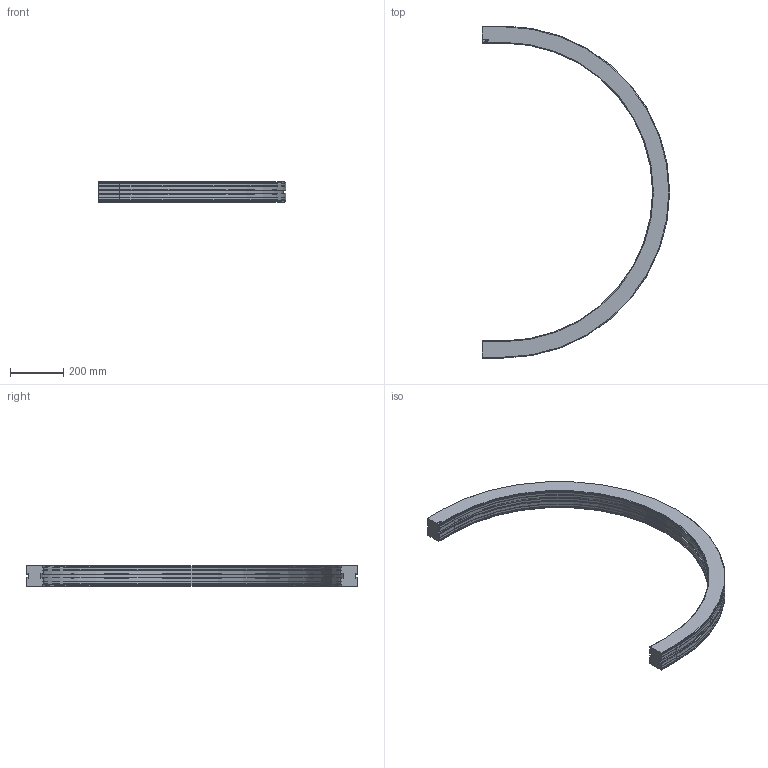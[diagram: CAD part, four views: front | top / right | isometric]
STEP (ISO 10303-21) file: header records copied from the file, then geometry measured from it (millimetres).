
FILE_DESCRIPTION((''),'2;1');
FILE_NAME('C:\Vault Klient\Projekt\Koncept konstruktion\Serie 620 Balk\620-5370.stp','2009-11-26T15:35:58',('Mathias'),(''),'Autodesk Inventor 2010','Autodesk Inventor 2010','');
FILE_SCHEMA(('AUTOMOTIVE_DESIGN { 1 0 10303 214 1 1 1 1 }'));
Length unit declared in the file: millimetre
Products named in the file (1): 620-5370
Bounding box: 701 x 1242 x 78 mm (x, y, z)
Volume: 9349223.4 mm3; surface area: 734082.4 mm2
Topology: 1 solids, 1 shells, 169 faces, 446 edges, 284 vertices
Faces by surface type: plane 109, cylinder 30, bspline 14, cone 12, torus 4
Entity records: 5295 total; most frequent: CARTESIAN_POINT 1094, ORIENTED_EDGE 892, DIRECTION 802, EDGE_CURVE 446, VECTOR 346, LINE 346, VERTEX_POINT 284, AXIS2_PLACEMENT_3D 228
